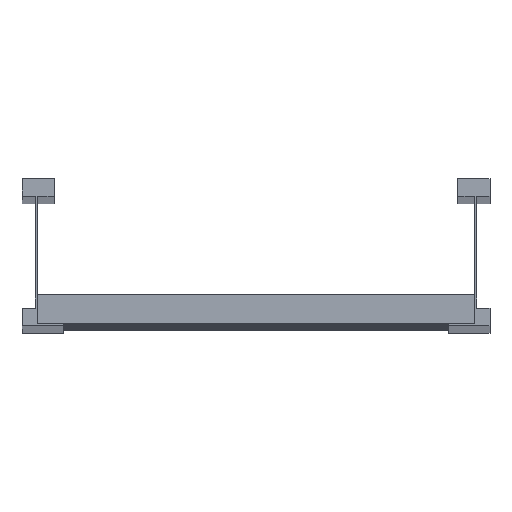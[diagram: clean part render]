
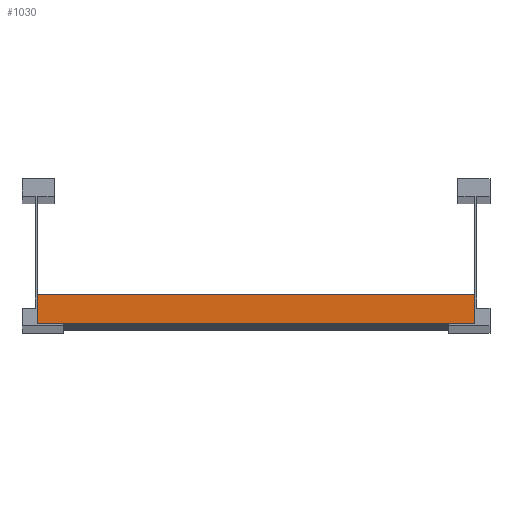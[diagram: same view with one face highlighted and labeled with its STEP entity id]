
A CAD part, top view. The second image highlights one B-rep face of the part: STEP entity #1030.
In plain terms, the highlighted planar face has unit normal (0, 0, 1).
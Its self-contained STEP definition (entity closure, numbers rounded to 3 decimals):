
#627 = VECTOR ( 'NONE', #3975, 1000. ) ;
#1030 = ADVANCED_FACE ( 'NONE', ( #1505 ), #8577, .F. ) ;
#1505 = FACE_OUTER_BOUND ( 'NONE', #7272, .T. ) ;
#1699 = ORIENTED_EDGE ( 'NONE', *, *, #7890, .T. ) ;
#2653 = ORIENTED_EDGE ( 'NONE', *, *, #8581, .T. ) ;
#2663 = LINE ( 'NONE', #5316, #8486 ) ;
#3244 = VECTOR ( 'NONE', #8282, 1000. ) ;
#3268 = EDGE_CURVE ( 'NONE', #9363, #11534, #2663, .T. ) ;
#3793 = VERTEX_POINT ( 'NONE', #11209 ) ;
#3975 = DIRECTION ( 'NONE',  ( 0., -1., 0. ) ) ;
#4129 = CARTESIAN_POINT ( 'NONE',  ( -148.5, 0., 20.25 ) ) ;
#4154 = DIRECTION ( 'NONE',  ( 0., 1., 0. ) ) ;
#4169 = VERTEX_POINT ( 'NONE', #11077 ) ;
#4793 = LINE ( 'NONE', #5737, #627 ) ;
#5316 = CARTESIAN_POINT ( 'NONE',  ( 148.5, 0., 20.25 ) ) ;
#5737 = CARTESIAN_POINT ( 'NONE',  ( 148.5, 20., 20.25 ) ) ;
#6345 = CARTESIAN_POINT ( 'NONE',  ( 148.5, 20., 20.25 ) ) ;
#6748 = DIRECTION ( 'NONE',  ( 0., 0., -1. ) ) ;
#6908 = CARTESIAN_POINT ( 'NONE',  ( -148.5, 20., 20.25 ) ) ;
#7272 = EDGE_LOOP ( 'NONE', ( #2653, #11541, #11591, #1699 ) ) ;
#7692 = CARTESIAN_POINT ( 'NONE',  ( 148.5, 20., 20.25 ) ) ;
#7890 = EDGE_CURVE ( 'NONE', #4169, #3793, #9993, .T. ) ;
#7964 = VECTOR ( 'NONE', #10448, 1000. ) ;
#8282 = DIRECTION ( 'NONE',  ( -1., 0., 0. ) ) ;
#8431 = EDGE_CURVE ( 'NONE', #4169, #9363, #4793, .T. ) ;
#8486 = VECTOR ( 'NONE', #9847, 1000. ) ;
#8577 = PLANE ( 'NONE',  #10445 ) ;
#8581 = EDGE_CURVE ( 'NONE', #3793, #11534, #8738, .T. ) ;
#8738 = LINE ( 'NONE', #6908, #7964 ) ;
#9363 = VERTEX_POINT ( 'NONE', #11184 ) ;
#9847 = DIRECTION ( 'NONE',  ( -1., 0., 0. ) ) ;
#9993 = LINE ( 'NONE', #6345, #3244 ) ;
#10445 = AXIS2_PLACEMENT_3D ( 'NONE', #7692, #6748, #4154 ) ;
#10448 = DIRECTION ( 'NONE',  ( 0., -1., 0. ) ) ;
#11077 = CARTESIAN_POINT ( 'NONE',  ( 148.5, 20., 20.25 ) ) ;
#11184 = CARTESIAN_POINT ( 'NONE',  ( 148.5, 0., 20.25 ) ) ;
#11209 = CARTESIAN_POINT ( 'NONE',  ( -148.5, 20., 20.25 ) ) ;
#11534 = VERTEX_POINT ( 'NONE', #4129 ) ;
#11541 = ORIENTED_EDGE ( 'NONE', *, *, #3268, .F. ) ;
#11591 = ORIENTED_EDGE ( 'NONE', *, *, #8431, .F. ) ;
